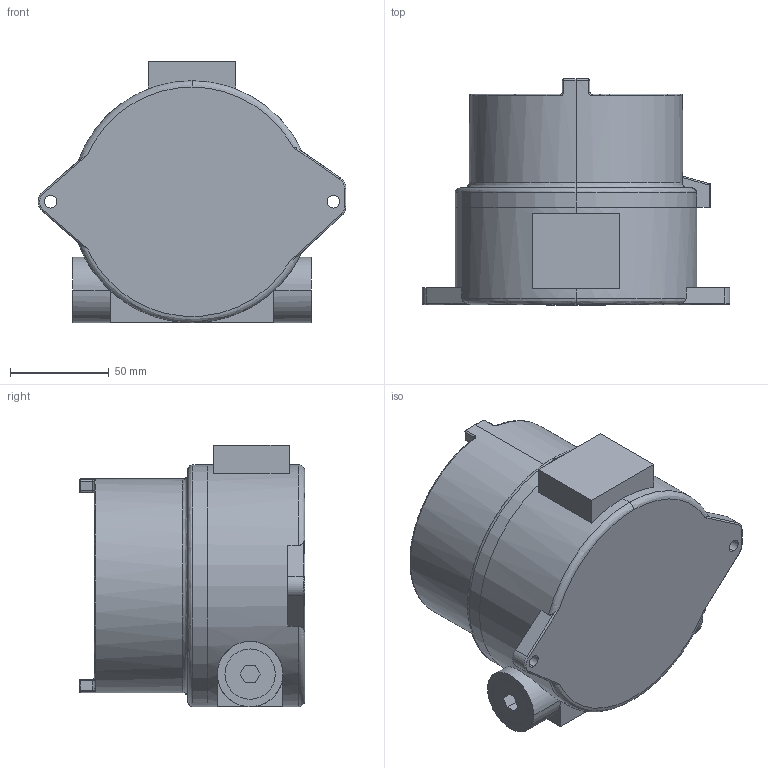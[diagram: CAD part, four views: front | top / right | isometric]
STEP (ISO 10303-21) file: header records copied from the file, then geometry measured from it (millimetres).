
FILE_DESCRIPTION (( 'STEP AP214' ), '1' );
FILE_NAME ('EPL-AED-1X.STEP', '2018-07-13T19:08:38', ( '' ), ( '' ), 'SwSTEP 2.0', 'SolidWorks 2016', '' );
FILE_SCHEMA (( 'AUTOMOTIVE_DESIGN' ));
Length unit declared in the file: inch
Products named in the file (3): EPL-AED-1X Top; EPL-AED-1X Bottom; EPL-AED-1X
Assembly tree (2 placements, depth 2):
  EPL-AED-1X
    EPL-AED-1X Bottom
    EPL-AED-1X Top
Bounding box: 155.57 x 113.98 x 132.12 mm (x, y, z)
Volume: 464020.6 mm3; surface area: 160947.8 mm2
Topology: 6 solids, 6 shells, 293 faces, 694 edges, 416 vertices
Faces by surface type: cylinder 121, plane 97, bspline 73, cone 2
Entity records: 11372 total; most frequent: CARTESIAN_POINT 4934, ORIENTED_EDGE 1372, DIRECTION 1236, EDGE_CURVE 686, AXIS2_PLACEMENT_3D 475, VERTEX_POINT 416, EDGE_LOOP 316, ADVANCED_FACE 293
